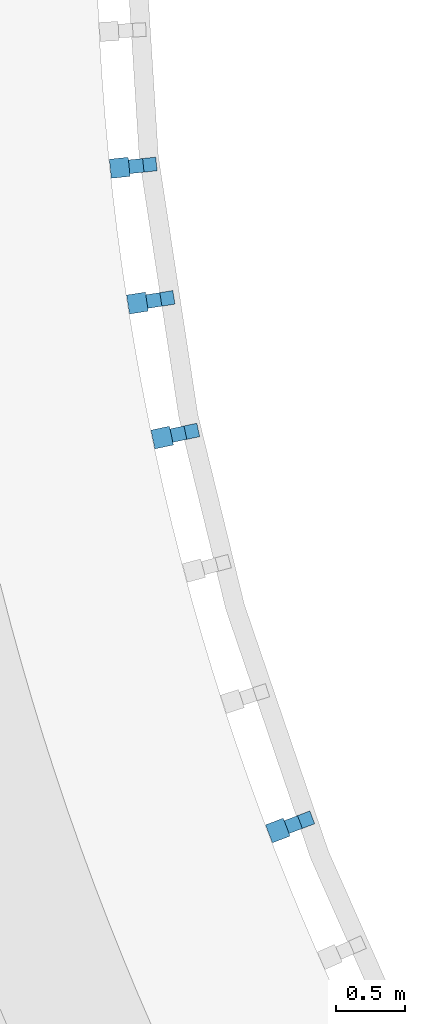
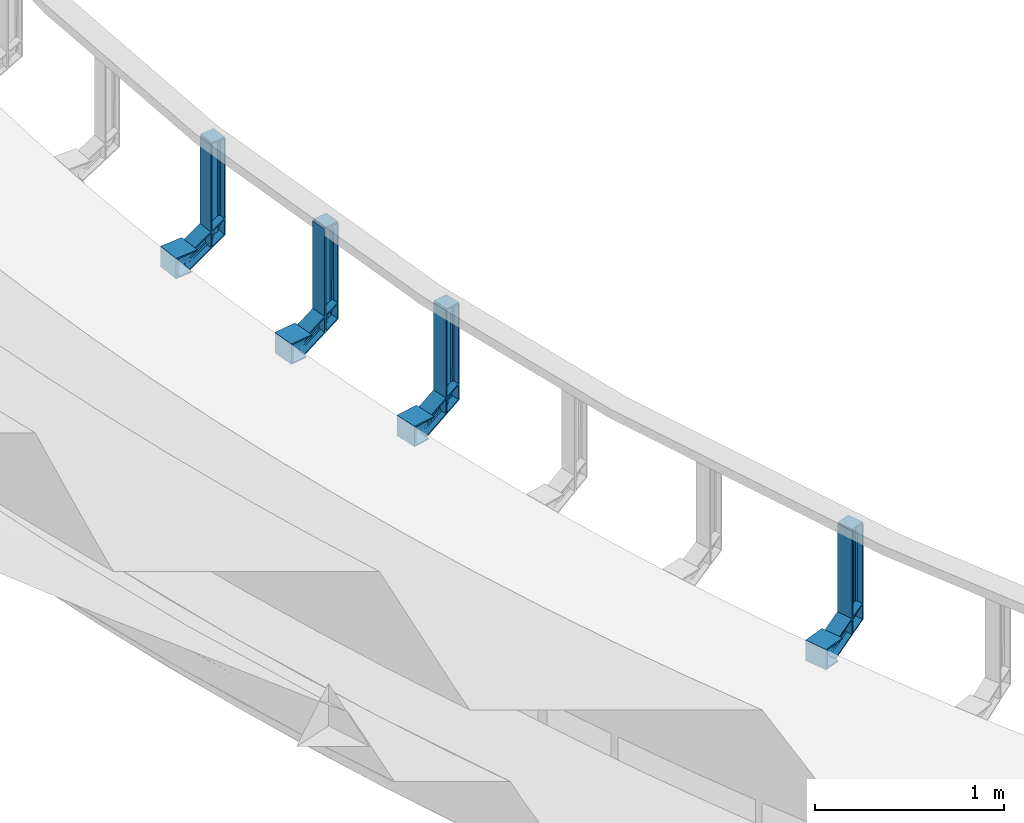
# One storey, part 38 of 68: 4 beams.
"""IFC2X3 building model written with IfcOpenShell, lengths in millimetres."""

from ifc_helpers import new_model, entity, si_unit, converted_unit, derived_unit, direction, frame, origin, place, context, subcontext, project, spatial, faceted_brep, source, transform, mapped, material, type_object, type_shapes, element, save


model = new_model("IFC2X3")

# Units and contexts
model_context = context("Model", 3, precision=0.01, world=origin(), true_north=direction((6.12303176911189e-17, 1.0)))
body_context = subcontext(model_context, "Body", "Model", "MODEL_VIEW")
ifc_project = project(units=[si_unit("LENGTHUNIT", "METRE", prefix="MILLI"), si_unit("AREAUNIT", "SQUARE_METRE", prefix="MILLI"), si_unit("VOLUMEUNIT", "CUBIC_METRE"), converted_unit("PLANEANGLEUNIT", "DEGREE", entity("IfcRatioMeasure", 0.0174532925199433), si_unit("PLANEANGLEUNIT", "RADIAN"), dimensions=[0, 0, 0, 0, 0, 0, 0]), si_unit("MASSUNIT", "GRAM", prefix="KILO"), derived_unit("MASSDENSITYUNIT", [(si_unit("MASSUNIT", "GRAM", prefix="KILO"), 1), (si_unit("LENGTHUNIT", "METRE"), -3)]), derived_unit("MOMENTOFINERTIAUNIT", [(si_unit("LENGTHUNIT", "METRE"), 4)]), si_unit("TIMEUNIT", "SECOND"), si_unit("FREQUENCYUNIT", "HERTZ"), si_unit("THERMODYNAMICTEMPERATUREUNIT", "DEGREE_CELSIUS"), derived_unit("THERMALTRANSMITTANCEUNIT", [(si_unit("MASSUNIT", "GRAM", prefix="KILO"), 1), (si_unit("THERMODYNAMICTEMPERATUREUNIT", "KELVIN"), -1), (si_unit("TIMEUNIT", "SECOND"), -3)]), derived_unit("VOLUMETRICFLOWRATEUNIT", [(si_unit("LENGTHUNIT", "METRE"), 3), (si_unit("TIMEUNIT", "SECOND"), -1)]), si_unit("ELECTRICCURRENTUNIT", "AMPERE"), si_unit("ELECTRICVOLTAGEUNIT", "VOLT"), si_unit("POWERUNIT", "WATT"), si_unit("FORCEUNIT", "NEWTON", prefix="KILO"), si_unit("ILLUMINANCEUNIT", "LUX"), si_unit("LUMINOUSFLUXUNIT", "LUMEN"), si_unit("LUMINOUSINTENSITYUNIT", "CANDELA"), derived_unit("USERDEFINED", [(si_unit("MASSUNIT", "GRAM", prefix="KILO"), -1), (si_unit("LENGTHUNIT", "METRE"), -2), (si_unit("TIMEUNIT", "SECOND"), 3), (si_unit("LUMINOUSFLUXUNIT", "LUMEN"), 1)]), derived_unit("LINEARVELOCITYUNIT", [(si_unit("LENGTHUNIT", "METRE"), 1), (si_unit("TIMEUNIT", "SECOND"), -1)]), si_unit("PRESSUREUNIT", "PASCAL"), derived_unit("USERDEFINED", [(si_unit("LENGTHUNIT", "METRE"), -2), (si_unit("MASSUNIT", "GRAM", prefix="KILO"), 1), (si_unit("TIMEUNIT", "SECOND"), -2)]), derived_unit("LINEARFORCEUNIT", [(si_unit("MASSUNIT", "GRAM", prefix="KILO"), 1), (si_unit("LENGTHUNIT", "METRE"), 1), (si_unit("TIMEUNIT", "SECOND"), -2), (si_unit("LENGTHUNIT", "METRE"), -1)]), derived_unit("PLANARFORCEUNIT", [(si_unit("MASSUNIT", "GRAM", prefix="KILO"), 1), (si_unit("LENGTHUNIT", "METRE"), 1), (si_unit("TIMEUNIT", "SECOND"), -2), (si_unit("LENGTHUNIT", "METRE"), -2)])], contexts=[model_context])

# Site, building, storey
site_placement = place(None, origin())
site = spatial("IfcSite", under=ifc_project, at=site_placement, Name="Theater aan de Parade", CompositionType="ELEMENT")
building_placement = place(site_placement, origin())
building = spatial("IfcBuilding", under=site, at=building_placement, Name="Theater aan de Parade", CompositionType="ELEMENT")
storey_placement = place(building_placement, frame((0.0, 0.0, 8750.0)))
storey = spatial("IfcBuildingStorey", under=building, at=storey_placement, Name="02 tweede verdieping", CompositionType="ELEMENT", Elevation=8750.0)

# Beams
ifc_material = material(Name="00_PBT_MAT_staal_S355")
beam_type = type_object("IfcBeamType", Name="28_PBT_SF_staal_baluster balkon:baluster HEA100", PredefinedType="BEAM", material=ifc_material)
shared_shape = source(origin(), body_context, "Body", "Brep", [
    faceted_brep([(50.0, -43.537813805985, 625.0), (50.0, 44.0, 625.0), (50.0, 44.0, 635.0), (50.0, -43.537813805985, 635.0), (-50.0, -43.537813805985, 625.0), (-50.0, -43.537813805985, 635.0), (-50.0, 44.0, 635.0), (-50.0, 44.0, 625.0)], [[[0, 1, 2, 3]], [[4, 5, 6, 7]], [[1, 0, 4, 7]], [[2, 1, 7, 6]], [[3, 2, 6, 5]], [[0, 3, 5, 4]]]),
    faceted_brep([(70.0, 278.0, -133.0), (70.0, 290.0, -133.0), (70.0, 290.0, 0.0), (70.0, 278.0, 0.0), (-70.0, 278.0, -133.0), (-70.0, 278.0, 0.0), (-70.0, 290.0, 0.0), (-70.0, 290.0, -133.0)], [[[0, 1, 2, 3]], [[4, 5, 6, 7]], [[1, 0, 4, 7]], [[2, 1, 7, 6]], [[3, 2, 6, 5]], [[0, 3, 5, 4]]]),
    faceted_brep([(14.7499999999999, 278.0, -124.5), (70.0, 278.0, -124.5), (70.0, 278.0, -133.0), (-70.0, 278.0, -133.0), (-70.0, 278.0, -124.500000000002), (-14.7500000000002, 278.0, -124.500000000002), (-11.6441714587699, 278.0, -124.091109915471), (-8.75000000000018, 278.0, -122.892304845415), (-6.26471862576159, 278.0, -120.98528137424), (-4.3576951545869, 278.0, -118.500000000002), (-3.15889008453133, 278.0, -115.605828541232), (-2.75000000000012, 278.0, -112.500000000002), (-2.75000000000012, 278.0, -20.500000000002), (-3.15889008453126, 278.0, -17.3941714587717), (-4.35769515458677, 278.0, -14.500000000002), (-6.26471862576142, 278.0, -12.0147186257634), (-8.74999999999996, 278.0, -10.1076951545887), (-11.6441714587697, 278.0, -8.90889008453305), (-14.7500000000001, 278.0, -8.50000000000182), (-70.0, 278.0, -8.50000000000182), (-70.0, 278.0, 0.0), (70.0, 278.0, 0.0), (70.0, 278.0, -8.50000000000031), (14.7499999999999, 278.0, -8.50000000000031), (11.6441714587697, 278.0, -8.90889008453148), (8.74999999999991, 278.0, -10.107695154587), (6.26471862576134, 278.0, -12.0147186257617), (4.35769515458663, 278.0, -14.5000000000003), (3.15889008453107, 278.0, -17.39417145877), (2.74999999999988, 278.0, -20.5000000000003), (2.74999999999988, 278.0, -112.5), (3.15889008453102, 278.0, -115.60582854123), (4.35769515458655, 278.0, -118.5), (6.26471862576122, 278.0, -120.985281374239), (8.74999999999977, 278.0, -122.892304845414), (11.6441714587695, 278.0, -124.091109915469), (70.0, 151.923048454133, 0.0), (70.0, 154.37480362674, -8.50000000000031), (70.0, 187.834050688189, -124.5), (70.0, 190.285805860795, -133.0), (14.7499999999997, 154.37480362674, -8.50000000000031), (14.7499999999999, 214.85290376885, -8.50000000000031), (-14.7500000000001, 214.852897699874, -8.50000000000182), (-14.7500000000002, 154.37480362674, -8.50000000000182), (-70.0, 154.37480362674, -8.50000000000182), (6.43965673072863, 216.327371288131, -11.8433150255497), (2.74999999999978, 217.521900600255, -20.5000000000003), (12.079748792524, 154.461585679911, -8.8008650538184), (9.5433951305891, 154.717580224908, -9.68837358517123), (7.26812237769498, 155.129950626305, -11.1180222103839), (5.36802221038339, 155.678018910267, -13.0181223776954), (3.05086505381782, 157.065893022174, -17.8297487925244), (2.74999999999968, 157.83610504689, -20.5000000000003), (3.9383735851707, 156.334302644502, -15.2933951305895), (2.74999999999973, 184.372749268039, -112.5), (3.93837358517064, 185.874551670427, -117.706604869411), (3.05086505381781, 185.142961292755, -115.170251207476), (5.36802221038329, 186.530835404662, -119.981877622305), (7.26812237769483, 187.078903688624, -121.881977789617), (9.54339513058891, 187.491274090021, -123.311626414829), (12.0797487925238, 187.747268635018, -124.199134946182), (14.7499999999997, 187.834050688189, -124.5), (-70.0, 187.83405068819, -124.500000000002), (-14.7500000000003, 187.83405068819, -124.500000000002), (-70.0, 190.285805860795, -133.0), (-70.0, 151.923048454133, 0.0), (-9.54339513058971, 187.491274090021, -123.311626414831), (-12.0797487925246, 187.747268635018, -124.199134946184), (-7.2681223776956, 187.078903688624, -121.881977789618), (-5.36802221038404, 186.530835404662, -119.981877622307), (-3.93837358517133, 185.874551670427, -117.706604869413), (-3.05086505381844, 185.142961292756, -115.170251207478), (-2.75000000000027, 184.37274926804, -112.500000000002), (-2.75000000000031, 157.83610504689, -20.500000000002), (-2.75000000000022, 217.521907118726, -20.5000000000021), (-6.43965718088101, 216.327373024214, -11.8433145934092), (-3.05086505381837, 157.065893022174, -17.8297487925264), (-3.93837358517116, 156.334302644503, -15.2933951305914), (-5.36802221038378, 155.678018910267, -13.0181223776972), (-7.2681223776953, 155.129950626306, -11.1180222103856), (-9.54339513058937, 154.717580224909, -9.68837358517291), (-12.0797487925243, 154.461585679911, -8.80086505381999)], [[[0, 1, 2, 3, 4, 5, 6, 7, 8, 9, 10, 11, 12, 13, 14, 15, 16, 17, 18, 19, 20, 21, 22, 23, 24, 25, 26, 27, 28, 29, 30, 31, 32, 33, 34, 35]], [[22, 21, 36, 37]], [[2, 1, 38, 39]], [[23, 22, 37, 40, 41]], [[19, 18, 42, 43, 44]], [[24, 45, 25]], [[25, 45, 26]], [[27, 45, 46]], [[41, 40, 47]], [[23, 41, 24]], [[27, 26, 45]], [[41, 47, 48]], [[45, 49, 50]], [[46, 29, 28]], [[48, 45, 41]], [[46, 28, 27]], [[51, 52, 46]], [[51, 46, 53]], [[45, 53, 46]], [[50, 53, 45]], [[48, 49, 45]], [[41, 45, 24]], [[30, 29, 46, 52, 54]], [[55, 32, 31]], [[56, 31, 30]], [[30, 54, 56]], [[32, 55, 57]], [[55, 31, 56]], [[57, 33, 32]], [[34, 33, 58]], [[35, 34, 59]], [[0, 35, 60]], [[34, 58, 59]], [[0, 60, 61]], [[60, 35, 59]], [[57, 58, 33]], [[1, 0, 61, 38]], [[5, 4, 62, 63]], [[3, 2, 39, 64]], [[4, 3, 64, 62]], [[20, 19, 44, 65]], [[66, 7, 6]], [[67, 6, 5]], [[5, 63, 67]], [[7, 66, 68]], [[66, 6, 67]], [[68, 8, 7]], [[9, 8, 69]], [[10, 9, 70]], [[11, 10, 71]], [[9, 69, 70]], [[11, 71, 72]], [[71, 10, 70]], [[68, 69, 8]], [[12, 11, 72, 73, 74]], [[74, 14, 13]], [[75, 15, 14]], [[17, 16, 75]], [[74, 73, 76]], [[16, 15, 75]], [[76, 77, 74]], [[75, 78, 79]], [[80, 81, 42]], [[77, 75, 74]], [[12, 74, 13]], [[75, 42, 17]], [[42, 18, 17]], [[42, 81, 43]], [[75, 80, 42]], [[80, 75, 79]], [[77, 78, 75]], [[75, 14, 74]], [[21, 20, 65, 36]], [[61, 60, 59, 58, 57, 55, 56, 54, 52, 51, 53, 50, 49, 48, 47, 40, 37, 36, 65, 44, 43, 81, 80, 79, 78, 77, 76, 73, 72, 71, 70, 69, 68, 66, 67, 63, 62, 64, 39, 38]]]),
    faceted_brep([(50.0, 155.119944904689, -11.0833333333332), (50.0, 151.923048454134, 0.0), (50.0, -48.0, 115.425625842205), (50.0, -48.0, 106.188021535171), (50.0, 190.285805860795, -133.0), (50.0, 187.08890941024, -121.916666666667), (50.0, -48.0, 13.8119784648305), (50.0, -48.0, 4.57437415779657), (14.4999999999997, 155.119944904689, -11.0833333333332), (14.4999999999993, -48.0, 106.188021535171), (14.4999999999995, 4.37555520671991, 75.9489806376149), (14.4999999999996, 56.7511250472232, 45.7099312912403), (-50.0, 155.119944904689, -11.0833333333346), (-14.5000000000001, 155.119944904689, -11.0833333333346), (-14.5000000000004, 56.7511361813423, 45.7099248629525), (-14.5000000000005, 4.37556274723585, 75.9489762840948), (-14.5000000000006, -48.0, 106.188021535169), (-50.0, -48.0, 106.188021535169), (12.1589161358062, 155.212086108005, -11.4027780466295), (6.13940978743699, 85.6560198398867, 25.105130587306), (9.9077988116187, 155.484968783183, -12.348836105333), (2.80086505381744, -48.0, 95.4149555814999), (2.49999999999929, -48.0, 92.3316150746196), (2.49999999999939, 4.37556701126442, 62.092567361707), (2.49999999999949, 55.164155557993, 32.7697620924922), (6.04197655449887, 10.2229142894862, 68.5459327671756), (2.49999999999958, 107.539722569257, 2.53071437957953), (2.49999999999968, 159.915289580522, -27.7083333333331), (2.73057663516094, 158.979764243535, -24.4649567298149), (7.83315720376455, 155.92810620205, -13.8851510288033), (11.8297487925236, -48.0, 105.840612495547), (3.41344560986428, 158.0801906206, -21.3462212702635), (4.52236465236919, 157.25113882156, -18.4719782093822), (7.01812237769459, -48.0, 103.164989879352), (5.11802221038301, -48.0, 100.970943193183), (3.68837358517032, -48.0, 98.3436845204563), (9.29339513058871, -48.0, 104.815805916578), (6.01471862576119, 156.524468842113, -15.9526830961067), (2.49999999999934, -48.0, 27.6683849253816), (2.49999999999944, 4.37556959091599, -2.57066427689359), (2.49999999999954, 56.7511354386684, -32.8097113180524), (2.49999999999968, 129.917998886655, -75.052619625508), (2.49999999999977, 182.293564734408, -105.291666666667), (4.52236465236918, 184.957715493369, -114.528021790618), (6.30956465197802, 103.743785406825, -70.0679088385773), (6.01471862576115, 185.684385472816, -117.047316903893), (14.4999999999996, 134.713341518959, -91.6776184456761), (9.90779881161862, 186.723885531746, -120.651163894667), (7.83315720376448, 186.280748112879, -119.114848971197), (12.1589161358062, 186.996768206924, -121.597221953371), (14.4999999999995, 69.5444547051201, -54.0523441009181), (5.87838992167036, 26.3899882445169, -24.9186641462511), (14.4999999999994, 4.3755678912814, -16.4270697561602), (5.11802221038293, -48.0, 19.0290568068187), (3.4134456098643, 184.128663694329, -111.653778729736), (2.80086505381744, -48.0, 24.5850444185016), (3.68837358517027, -48.0, 21.6563154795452), (14.4999999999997, 187.08890941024, -121.916666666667), (7.01812237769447, -48.0, 16.8350101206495), (9.29339513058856, -48.0, 15.1841940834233), (2.73057663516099, 183.229090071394, -108.535043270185), (14.4999999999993, -48.0, 13.8119784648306), (11.8297487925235, -48.0, 14.1593875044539), (-50.0, 187.088909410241, -121.916666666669), (-50.0, -48.0, 13.8119784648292), (-14.5000000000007, -48.0, 13.8119784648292), (-14.5000000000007, 4.37556899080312, -16.4270703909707), (-14.5000000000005, 69.5444561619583, -54.0523449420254), (-14.5000000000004, 134.713343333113, -91.6776194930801), (-14.5000000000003, 187.088909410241, -121.916666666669), (-50.0, 190.285805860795, -133.0), (-50.0, -48.0, 4.57437415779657), (-50.0, 151.923048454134, 0.0), (-50.0, -48.0, 115.425625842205), (-6.30956482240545, 103.743788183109, -70.0679106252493), (-3.41344560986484, 184.128663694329, -111.653778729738), (-4.52236465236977, 184.95771549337, -114.52802179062), (-2.50000000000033, 129.917999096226, -75.0526197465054), (-9.29339513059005, -48.0, 15.1841940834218), (-7.01812237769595, -48.0, 16.835010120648), (-5.87838988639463, 26.389986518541, -24.9186631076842), (-7.8331572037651, 186.28074811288, -119.114848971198), (-6.01471862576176, 185.684385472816, -117.047316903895), (-11.829748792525, -48.0, 14.1593875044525), (-5.11802221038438, -48.0, 19.0290568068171), (-2.50000000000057, 4.37557526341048, -2.57066755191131), (-2.50000000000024, 182.293564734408, -105.291666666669), (-2.7305766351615, 183.229090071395, -108.535043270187), (-9.90779881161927, 186.723885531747, -120.651163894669), (-12.1589161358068, 186.996768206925, -121.597221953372), (-2.80086505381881, -48.0, 24.5850444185), (-2.50000000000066, -48.0, 27.6683849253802), (-2.50000000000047, 56.7511409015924, -32.8097144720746), (-3.68837358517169, -48.0, 21.6563154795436), (-2.50000000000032, 159.915289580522, -27.708333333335), (-2.50000000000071, -48.0, 92.3316150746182), (-2.50000000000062, 4.37556371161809, 62.0925692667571), (-2.50000000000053, 55.1641543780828, 32.7697627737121), (-2.50000000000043, 107.539718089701, 2.53071696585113), (-2.73057663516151, 158.979764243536, -24.464956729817), (-11.8297487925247, -48.0, 105.840612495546), (-6.01471862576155, 156.524468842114, -15.9526830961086), (-6.13940988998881, 85.6560228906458, 25.1051289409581), (-7.83315720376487, 155.92810620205, -13.885151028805), (-5.11802221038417, -48.0, 100.970943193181), (-7.0181223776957, -48.0, 103.16498987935), (-6.04197656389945, 10.2229155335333, 68.5459320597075), (-9.90779881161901, 155.484968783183, -12.3488361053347), (-4.52236465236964, 157.25113882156, -18.4719782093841), (-2.80086505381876, -48.0, 95.4149555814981), (-3.68837358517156, -48.0, 98.3436845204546), (-12.1589161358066, 155.212086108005, -11.402778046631), (-3.41344560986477, 158.080190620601, -21.3462212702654), (-9.29339513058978, -48.0, 104.815805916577)], [[[0, 1, 2, 3]], [[4, 5, 6, 7]], [[8, 0, 3, 9, 10, 11]], [[12, 13, 14, 15, 16, 17]], [[18, 19, 20]], [[21, 22, 23]], [[23, 24, 25]], [[26, 27, 28]], [[29, 20, 19]], [[26, 19, 24]], [[10, 25, 11]], [[8, 11, 18]], [[18, 11, 19]], [[11, 25, 19]], [[19, 25, 24]], [[10, 9, 30]], [[31, 32, 26]], [[33, 34, 25]], [[35, 25, 34]], [[23, 25, 35]], [[33, 25, 36]], [[28, 31, 26]], [[37, 19, 32]], [[36, 10, 30]], [[19, 26, 32]], [[21, 23, 35]], [[25, 10, 36]], [[29, 19, 37]], [[27, 26, 24, 23, 22, 38, 39, 40, 41, 42]], [[43, 44, 45]], [[46, 47, 48]], [[49, 47, 46]], [[50, 51, 52]], [[51, 39, 53]], [[44, 43, 54]], [[39, 38, 55]], [[56, 39, 55]], [[46, 57, 49]], [[44, 41, 40]], [[51, 53, 58]], [[44, 48, 45]], [[58, 59, 51]], [[44, 54, 41]], [[60, 41, 54]], [[51, 44, 40]], [[61, 52, 62]], [[51, 40, 39]], [[50, 46, 44]], [[46, 48, 44]], [[53, 39, 56]], [[60, 42, 41]], [[62, 52, 59]], [[50, 44, 51]], [[59, 52, 51]], [[5, 57, 46, 50, 52, 61, 6]], [[63, 64, 65, 66, 67, 68, 69]], [[70, 4, 7, 71]], [[63, 70, 71, 64]], [[72, 12, 17, 73]], [[74, 68, 67]], [[74, 75, 76]], [[75, 74, 77]], [[78, 79, 80]], [[81, 74, 82]], [[78, 66, 83]], [[84, 85, 80]], [[77, 86, 87]], [[68, 81, 88]], [[89, 68, 88]], [[90, 91, 85]], [[80, 74, 67]], [[66, 78, 80]], [[74, 80, 92]], [[66, 65, 83]], [[92, 80, 85]], [[90, 85, 93]], [[85, 84, 93]], [[81, 68, 74]], [[79, 84, 80]], [[68, 89, 69]], [[76, 82, 74]], [[92, 77, 74]], [[75, 77, 87]], [[66, 80, 67]], [[94, 86, 77, 92, 85, 91, 95, 96, 97, 98]], [[98, 99, 94]], [[100, 16, 15]], [[101, 102, 103]], [[104, 105, 106]], [[103, 102, 107]], [[108, 102, 101]], [[102, 106, 14]], [[102, 97, 106]], [[108, 98, 102]], [[96, 109, 110]], [[102, 111, 107]], [[96, 106, 97]], [[104, 106, 110]], [[99, 98, 112]], [[106, 15, 14]], [[108, 112, 98]], [[100, 15, 113]], [[111, 102, 14]], [[110, 106, 96]], [[98, 97, 102]], [[15, 106, 113]], [[14, 13, 111]], [[113, 106, 105]], [[96, 95, 109]], [[1, 72, 73, 2]], [[61, 62, 59, 58, 53, 56, 55, 38, 22, 21, 35, 34, 33, 36, 30, 9, 3, 2, 73, 17, 16, 100, 113, 105, 104, 110, 109, 95, 91, 90, 93, 84, 79, 78, 83, 65, 64, 71, 7, 6]], [[8, 18, 20, 29, 37, 32, 31, 28, 27, 42, 60, 54, 43, 45, 48, 47, 49, 57, 5, 4, 70, 63, 69, 89, 88, 81, 82, 76, 75, 87, 86, 94, 99, 112, 108, 101, 103, 107, 111, 13, 12, 72, 1, 0]]]),
    faceted_brep([(14.4999999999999, 40.0, 625.0), (50.0, 40.0, 625.0), (50.0, 48.0, 625.0), (-50.0, 48.0, 625.0), (-50.0, 40.0, 625.0), (-14.5000000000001, 40.0, 625.0), (-11.3941714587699, 39.5911099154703, 625.0), (-8.50000000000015, 38.3923048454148, 625.0), (-6.01471862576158, 36.4852813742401, 625.0), (-4.10769515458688, 34.0, 625.0), (-2.90889008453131, 31.1058285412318, 625.0), (-2.50000000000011, 28.0, 625.0), (-2.50000000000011, -28.0, 625.0), (-2.90889008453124, -31.1058285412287, 625.0), (-4.10769515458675, -34.0, 625.0), (-6.01471862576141, -36.4852813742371, 625.0), (-8.49999999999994, -38.3923048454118, 625.0), (-11.3941714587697, -39.5911099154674, 625.0), (-14.5000000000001, -40.0, 625.0), (-50.0, -40.0, 625.0), (-50.0, -48.0, 625.0), (50.0, -48.0, 625.0), (50.0, -40.0, 625.0), (14.4999999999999, -40.0, 625.0), (11.3941714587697, -39.5911099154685, 625.0), (8.49999999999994, -38.392304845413, 625.0), (6.01471862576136, -36.4852813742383, 625.0), (4.10769515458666, -34.0, 625.0), (2.90889008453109, -31.10582854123, 625.0), (2.49999999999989, -28.0, 625.0), (2.49999999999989, 28.0, 625.0), (2.90889008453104, 31.1058285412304, 625.0), (4.10769515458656, 34.0, 625.0), (6.01471862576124, 36.4852813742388, 625.0), (8.4999999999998, 38.3923048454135, 625.0), (11.3941714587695, 39.5911099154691, 625.0), (50.0, -48.0, 165.0), (50.0, -48.0, 4.57437415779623), (50.0, -40.0, -0.0444279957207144), (50.0, 40.0, -46.2324495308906), (50.0, 48.0, -50.8512516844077), (14.4999999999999, -40.0, -0.0444279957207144), (14.4999999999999, -40.0, 60.433662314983), (14.4999999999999, -40.0, 156.216673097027), (14.4999999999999, -40.0, 234.347235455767), (14.4999999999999, -40.0, 312.477797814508), (14.4999999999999, -40.0, 390.608336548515), (14.4999999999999, -40.0, 468.738898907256), (14.4999999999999, -40.0, 564.521909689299), (-14.4999999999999, -40.0, 564.521898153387), (-14.4999999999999, -40.0, 468.738893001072), (-14.4999999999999, -40.0, 390.608339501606), (-14.4999999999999, -40.0, 312.477786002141), (-14.5, -40.0, 234.347232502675), (-14.5, -40.0, 156.21667900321), (-14.5, -40.0, 60.4336544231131), (-14.5, -40.0, -0.0444279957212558), (-50.0, -40.0, -0.0444279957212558), (6.01471822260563, -36.4852809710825, 534.282851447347), (6.38111782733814, -36.8365011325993, 422.595542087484), (2.49999999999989, -28.0, 429.969869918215), (2.49999999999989, -28.0, 504.043806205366), (7.01812237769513, -37.3819777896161, -1.55594382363), (5.87838991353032, -36.3467262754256, 83.7445110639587), (9.29339513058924, -38.8116264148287, -0.730535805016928), (2.49999999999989, -28.0, 564.521903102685), (5.11802221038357, -35.4818776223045, -2.65296716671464), (11.8297487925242, -39.6991349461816, -0.21813251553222), (5.33717277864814, -35.7487158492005, 157.721305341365), (6.03175640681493, -36.5022850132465, 273.412504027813), (2.49999999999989, -28.0, 113.983554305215), (2.80086505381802, -30.6702512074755, -5.43096097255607), (2.49999999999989, -28.0, -6.97263122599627), (2.49999999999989, -28.0, 53.5054574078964), (6.45584074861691, -36.9045775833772, 351.543056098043), (3.68837358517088, -33.2066048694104, -3.96659650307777), (2.49999999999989, -28.0, 174.461651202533), (2.49999999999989, -28.0, 234.939748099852), (2.49999999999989, -28.0, 332.454809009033), (2.49999999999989, 28.0, -39.3042463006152), (2.49999999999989, 28.0, 21.173847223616), (2.49999999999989, 28.0, 81.6519407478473), (2.49999999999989, 28.0, 171.891681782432), (2.49999999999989, 28.0, 277.489637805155), (2.49999999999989, 28.0, 383.087609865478), (2.49999999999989, 28.0, 443.56570338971), (2.49999999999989, 28.0, 504.043796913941), (2.49999999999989, 28.0, 564.521906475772), (14.4999999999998, 40.0, 564.521898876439), (6.01471890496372, 36.4852816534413, 534.282850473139), (14.4999999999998, 40.0, 457.191892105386), (14.4999999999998, 40.0, 74.7237437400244), (5.87838987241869, 36.3467262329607, 51.4128968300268), (14.4999999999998, 40.0, 14.245651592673), (7.12980766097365, 37.4699664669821, 128.3887480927), (14.4999999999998, 40.0, 182.05375948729), (5.68142979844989, 36.138354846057, 331.335798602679), (14.4999999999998, 40.0, 289.383775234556), (14.4999999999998, 40.0, 373.287833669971), (6.48410362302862, 36.9300282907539, 264.631830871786), (3.68837358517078, 33.2066048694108, -42.3102810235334), (5.11802221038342, 35.481877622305, -43.6239103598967), (11.8297487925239, 39.6991349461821, -46.058745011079), (14.4999999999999, 40.0, -46.2324495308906), (9.29339513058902, 38.8116264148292, -45.5463417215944), (7.01812237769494, 37.3819777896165, -44.7209337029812), (5.85986411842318, 36.3275477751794, 197.731198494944), (5.34384824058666, 35.7566026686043, 460.437179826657), (2.80086505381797, 30.6702512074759, -40.8459165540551), (6.59968170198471, 37.0324399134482, 396.193688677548), (-50.0, 40.0, -46.2324495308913), (-14.5000000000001, 40.0, -46.2324495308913), (-14.5000000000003, 40.0, 14.245637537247), (-14.5000000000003, 40.0, 121.575655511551), (-14.5000000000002, 40.0, 205.479712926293), (-14.5000000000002, 40.0, 289.383770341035), (-14.5000000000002, 40.0, 373.287827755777), (-14.5000000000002, 40.0, 457.191885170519), (-14.5000000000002, 40.0, 564.521903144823), (-50.0, 48.0, -50.8512516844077), (-50.0, -48.0, 4.57437415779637), (-50.0, -48.0, 165.0), (-6.01471845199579, 36.4852812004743, 534.282853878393), (-5.34384807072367, 35.7566024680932, 460.437182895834), (-2.5000000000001, 28.0, 504.043796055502), (-2.5000000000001, 28.0, 564.521888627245), (-7.01812237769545, 37.3819777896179, -44.720933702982), (-9.29339513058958, 38.8116264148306, -45.5463417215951), (-5.68142973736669, 36.1383547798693, 331.33579885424), (-6.3722320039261, 36.8283286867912, 262.824412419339), (-2.5000000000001, 28.0, 383.087610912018), (-6.59968165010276, 37.0324398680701, 396.193689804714), (-11.8297487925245, 39.6991349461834, -46.0587450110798), (-6.18948395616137, 36.6565191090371, 51.4128959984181), (-5.11802221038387, 35.4818776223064, -43.6239103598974), (-3.68837358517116, 33.2066048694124, -42.3102810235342), (-2.80086505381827, 30.6702512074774, -40.8459165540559), (-2.5000000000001, 28.0, 21.1738462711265), (-2.5000000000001, 28.0, 81.6519388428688), (-5.3518166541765, 35.7659990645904, 125.002033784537), (-2.5000000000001, 28.0, -39.3042463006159), (-2.5000000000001, 28.0, 277.489637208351), (-2.5000000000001, 28.0, 443.56570348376), (-2.5000000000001, 28.0, 171.891682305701), (-5.88018165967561, 36.3485766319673, 194.135386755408), (-2.50000000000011, -28.0, -6.97263122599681), (-2.50000000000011, -28.0, 53.5054568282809), (-2.50000000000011, -28.0, 113.983561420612), (-2.50000000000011, -28.0, 174.461666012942), (-2.50000000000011, -28.0, 234.93975406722), (-2.50000000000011, -28.0, 332.454811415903), (-2.50000000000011, -28.0, 429.969885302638), (-2.50000000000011, -28.0, 504.043823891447), (-2.50000000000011, -28.0, 564.521911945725), (-9.29339513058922, -38.8116264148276, -0.730535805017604), (-5.8783899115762, -36.3467262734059, 83.7445122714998), (-5.33717271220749, -35.7487157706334, 157.721307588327), (-6.0147187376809, -36.4852814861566, 534.282853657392), (-6.45584072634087, -36.9045775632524, 351.543059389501), (-6.38111797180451, -36.8365012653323, 422.595548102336), (-2.80086505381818, -30.6702512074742, -5.43096097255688), (-3.688373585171, -33.2066048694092, -3.96659650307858), (-5.11802221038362, -35.4818776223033, -2.65296716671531), (-7.01812237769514, -37.3819777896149, -1.55594382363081), (-6.03175635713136, -36.5022849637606, 273.412506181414), (-11.8297487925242, -39.6991349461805, -0.218132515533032)], [[[0, 1, 2, 3, 4, 5, 6, 7, 8, 9, 10, 11, 12, 13, 14, 15, 16, 17, 18, 19, 20, 21, 22, 23, 24, 25, 26, 27, 28, 29, 30, 31, 32, 33, 34, 35]], [[22, 21, 36, 37, 38]], [[2, 1, 39, 40]], [[23, 22, 38, 41, 42, 43, 44, 45, 46, 47, 48]], [[19, 18, 49, 50, 51, 52, 53, 54, 55, 56, 57]], [[58, 26, 25]], [[26, 58, 27]], [[48, 47, 58]], [[59, 60, 61]], [[62, 63, 64]], [[28, 27, 65]], [[63, 62, 66]], [[42, 41, 67]], [[68, 69, 44]], [[63, 70, 68]], [[58, 61, 65]], [[42, 63, 43]], [[68, 43, 63]], [[64, 42, 67]], [[24, 23, 48]], [[71, 72, 73]], [[25, 48, 58]], [[69, 74, 45]], [[45, 74, 46]], [[65, 27, 58]], [[24, 48, 25]], [[71, 73, 75]], [[64, 63, 42]], [[70, 63, 73]], [[73, 66, 75]], [[58, 59, 61]], [[66, 73, 63]], [[65, 29, 28]], [[44, 69, 45]], [[76, 77, 68, 70]], [[44, 43, 68]], [[77, 78, 69]], [[78, 60, 74]], [[77, 69, 68]], [[59, 46, 74]], [[59, 74, 60]], [[78, 74, 69]], [[59, 47, 46]], [[47, 59, 58]], [[30, 29, 65, 61, 60, 78, 77, 76, 70, 73, 72, 79, 80, 81, 82, 83, 84, 85, 86, 87]], [[34, 88, 35]], [[89, 90, 88]], [[91, 92, 93]], [[33, 89, 34]], [[81, 80, 92]], [[94, 91, 95]], [[32, 89, 33]], [[96, 97, 98]], [[97, 96, 99]], [[100, 101, 92]], [[87, 86, 89]], [[31, 87, 32]], [[100, 92, 80]], [[102, 103, 93]], [[102, 93, 104]], [[32, 87, 89]], [[101, 105, 92]], [[93, 105, 104]], [[106, 95, 99]], [[88, 34, 89]], [[107, 89, 86]], [[88, 0, 35]], [[80, 108, 100]], [[80, 79, 108]], [[105, 93, 92]], [[31, 30, 87]], [[106, 94, 95]], [[94, 82, 81]], [[90, 89, 107]], [[92, 94, 81]], [[91, 94, 92]], [[82, 94, 106]], [[109, 98, 90]], [[107, 85, 109]], [[84, 109, 85]], [[109, 96, 98]], [[96, 84, 83]], [[106, 83, 82]], [[99, 96, 83]], [[97, 99, 95]], [[106, 99, 83]], [[96, 109, 84]], [[107, 86, 85]], [[107, 109, 90]], [[1, 0, 88, 90, 98, 97, 95, 91, 93, 103, 39]], [[5, 4, 110, 111, 112, 113, 114, 115, 116, 117, 118]], [[3, 2, 40, 119]], [[4, 3, 119, 110]], [[20, 19, 57, 120, 121]], [[8, 7, 122]], [[7, 118, 122]], [[123, 124, 122]], [[124, 125, 122]], [[126, 112, 127]], [[6, 5, 118]], [[6, 118, 7]], [[123, 122, 117]], [[128, 115, 129]], [[128, 130, 131]], [[112, 111, 132]], [[133, 126, 134]], [[8, 122, 9]], [[133, 113, 112]], [[133, 134, 135]], [[136, 137, 135]], [[118, 117, 122]], [[135, 137, 133]], [[138, 139, 133]], [[138, 133, 137]], [[122, 125, 9]], [[137, 136, 140]], [[127, 112, 132]], [[125, 11, 10]], [[112, 126, 133]], [[10, 9, 125]], [[113, 133, 139]], [[128, 141, 130]], [[142, 124, 123]], [[123, 117, 131]], [[115, 128, 116]], [[116, 128, 131]], [[139, 138, 143]], [[144, 114, 113]], [[113, 139, 144]], [[143, 144, 139]], [[144, 141, 129]], [[115, 114, 129]], [[144, 143, 141]], [[128, 129, 141]], [[144, 129, 114]], [[116, 131, 117]], [[130, 142, 131]], [[142, 123, 131]], [[11, 125, 124, 142, 130, 141, 143, 138, 137, 140, 145, 146, 147, 148, 149, 150, 151, 152, 153, 12]], [[49, 17, 16]], [[154, 55, 155]], [[156, 147, 155]], [[157, 153, 152]], [[14, 157, 15]], [[157, 16, 15]], [[158, 51, 159]], [[157, 50, 49]], [[160, 161, 146]], [[156, 155, 54]], [[49, 18, 17]], [[13, 153, 14]], [[12, 153, 13]], [[155, 162, 163]], [[151, 158, 159]], [[14, 153, 157]], [[146, 145, 160]], [[163, 154, 155]], [[155, 147, 146]], [[146, 162, 155]], [[164, 158, 150]], [[165, 56, 55]], [[54, 155, 55]], [[49, 16, 157]], [[161, 162, 146]], [[165, 55, 154]], [[159, 50, 157]], [[152, 159, 157]], [[148, 147, 156, 149]], [[149, 156, 164]], [[53, 52, 164]], [[156, 54, 53]], [[53, 164, 156]], [[51, 158, 52]], [[149, 164, 150]], [[52, 158, 164]], [[150, 158, 151]], [[152, 151, 159]], [[159, 51, 50]], [[21, 20, 121, 120, 37, 36]], [[103, 102, 104, 105, 101, 100, 108, 79, 72, 71, 75, 66, 62, 64, 67, 41, 38, 37, 120, 57, 56, 165, 154, 163, 162, 161, 160, 145, 140, 136, 135, 134, 126, 127, 132, 111, 110, 119, 40, 39]]]),
])
type_shapes(beam_type, [shared_shape])
for number, where, z_axis, x_axis, name in (
    (1, (53444.299910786, 30484.0829057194, -2040.0), (0.0, 0.0, 1.0), (-0.103850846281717, 0.994592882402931, 0.0), "28_PBT_SF_staal_baluster balkon:baluster HEA100"),
    (2, (53750.2392737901, 28540.5041594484, -2040.0), (0.0, 0.0, 1.0), (-0.206588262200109, 0.978427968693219, 0.0), "28_PBT_SF_staal_baluster balkon:baluster HEA100"),
    (3, (53571.9875075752, 29509.4958406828, -2040.0), (0.0, 0.0, 1.0), (-0.155434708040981, 0.987846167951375, 0.0), "28_PBT_SF_staal_baluster balkon:baluster HEA100"),
    (4, (54583.1204636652, 25709.73731506, -2040.0), (0.0, 0.0, 1.0), (-0.356159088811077, 0.934425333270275, 0.0), "28_PBT_SF_staal_baluster balkon:baluster HEA100"),
):
    element("IfcBeam", number, at=place(storey_placement, frame(where, z_axis=z_axis, x_axis=x_axis)), inside=storey, type_object=beam_type, material=ifc_material, Name=name, ObjectType="28_PBT_SF_staal_baluster balkon:baluster HEA100", context=body_context, shape_type="MappedRepresentation", body=[
        mapped(shared_shape, transform((0.0, 0.0, 0.0), scale=1.0)),
    ])

save(model, "model.ifc")
